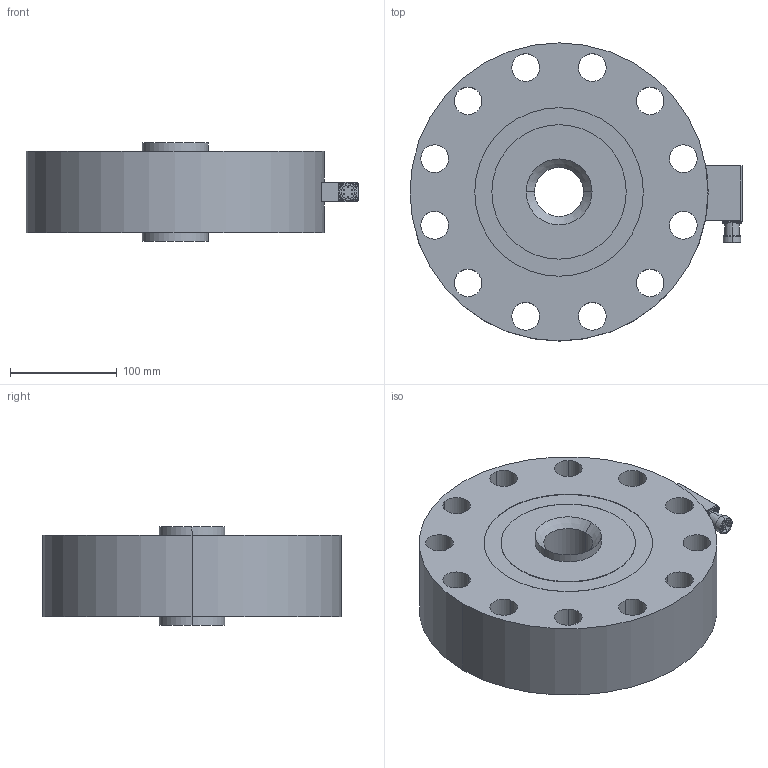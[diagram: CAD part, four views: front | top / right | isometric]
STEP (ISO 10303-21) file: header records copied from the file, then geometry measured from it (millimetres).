
FILE_DESCRIPTION(('STEP AP203'),'1');
FILE_NAME('C:/TPO v2/SharedFS/Outgoing/burster_85041-7001_6ig9bwaa7zrlq31s02xm6l7uc.stp','2013-08-27T13:47:36',('TraceParts'),('TraceParts S.A.'),'XStep 1.0',' ',' ');
FILE_SCHEMA(('CONFIG_CONTROL_DESIGN'));
Length unit declared in the file: millimetre
Products named in the file (1): 1
Bounding box: 311.2 x 279.4 x 92.03 mm (x, y, z)
Volume: 4060019.4 mm3; surface area: 271682.3 mm2
Topology: 1 solids, 1 shells, 178 faces, 441 edges, 278 vertices
Faces by surface type: plane 86, cylinder 58, torus 18, cone 16
Entity records: 5795 total; most frequent: CARTESIAN_POINT 1422, DIRECTION 933, ORIENTED_EDGE 882, EDGE_CURVE 441, AXIS2_PLACEMENT_3D 373, VERTEX_POINT 278, EDGE_LOOP 217, CIRCLE 194
